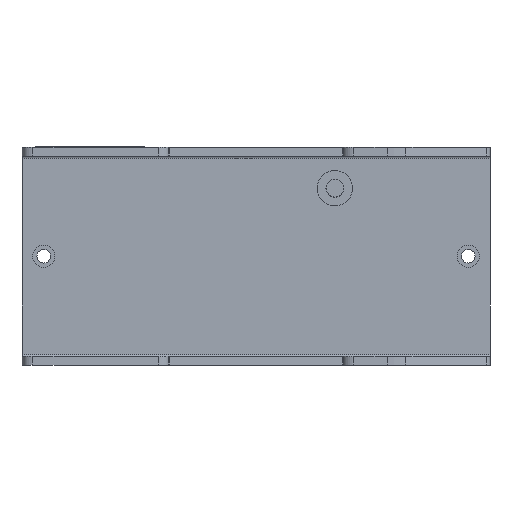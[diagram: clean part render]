
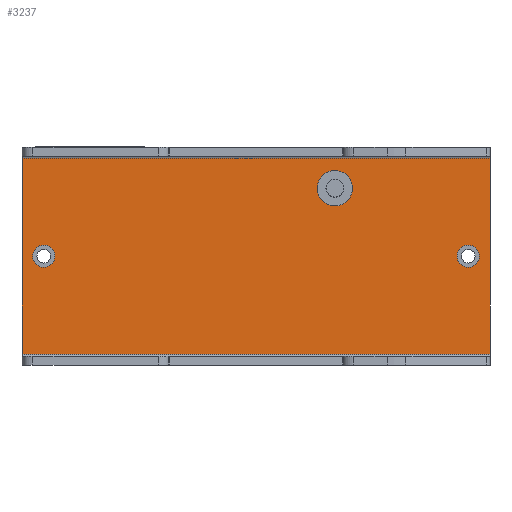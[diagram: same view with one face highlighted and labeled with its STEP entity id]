
A CAD part, front view. The second image highlights one B-rep face of the part: STEP entity #3237.
In plain terms, the highlighted planar face has unit normal (0, -1, 0).
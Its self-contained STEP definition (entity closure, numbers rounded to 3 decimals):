
#55 = ORIENTED_EDGE ( 'NONE', *, *, #2694, .F. ) ;
#68 = EDGE_CURVE ( 'NONE', #1998, #656, #1394, .T. ) ;
#72 = DIRECTION ( 'NONE',  ( 0., -1., 0. ) ) ;
#90 = CIRCLE ( 'NONE', #2482, 3.25 ) ;
#99 = DIRECTION ( 'NONE',  ( -1., 0., 0. ) ) ;
#169 = PLANE ( 'NONE',  #861 ) ;
#268 = EDGE_CURVE ( 'NONE', #656, #1998, #90, .T. ) ;
#327 = CARTESIAN_POINT ( 'NONE',  ( 82., 10.4, 20. ) ) ;
#333 = ORIENTED_EDGE ( 'NONE', *, *, #405, .F. ) ;
#357 = EDGE_CURVE ( 'NONE', #1734, #564, #639, .T. ) ;
#395 = AXIS2_PLACEMENT_3D ( 'NONE', #1664, #72, #1939 ) ;
#399 = VECTOR ( 'NONE', #1280, 1000. ) ;
#405 = EDGE_CURVE ( 'NONE', #2852, #3294, #1796, .T. ) ;
#450 = DIRECTION ( 'NONE',  ( 0., -1., 0. ) ) ;
#506 = ORIENTED_EDGE ( 'NONE', *, *, #357, .T. ) ;
#554 = DIRECTION ( 'NONE',  ( 0., 0., -1. ) ) ;
#564 = VERTEX_POINT ( 'NONE', #1783 ) ;
#566 = DIRECTION ( 'NONE',  ( 0., -1., 0. ) ) ;
#590 = ORIENTED_EDGE ( 'NONE', *, *, #2190, .F. ) ;
#596 = EDGE_LOOP ( 'NONE', ( #1379, #3202 ) ) ;
#634 = VERTEX_POINT ( 'NONE', #3139 ) ;
#639 = LINE ( 'NONE', #2443, #1177 ) ;
#656 = VERTEX_POINT ( 'NONE', #3183 ) ;
#711 = DIRECTION ( 'NONE',  ( 0., -1., 0. ) ) ;
#718 = DIRECTION ( 'NONE',  ( 0., 0., -1. ) ) ;
#817 = CARTESIAN_POINT ( 'NONE',  ( 4., 10.4, 20. ) ) ;
#851 = DIRECTION ( 'NONE',  ( 0., 0., -1. ) ) ;
#861 = AXIS2_PLACEMENT_3D ( 'NONE', #1771, #711, #2570 ) ;
#872 = CARTESIAN_POINT ( 'NONE',  ( 82., 10.4, 20. ) ) ;
#889 = FACE_BOUND ( 'NONE', #1391, .T. ) ;
#972 = FACE_OUTER_BOUND ( 'NONE', #2098, .T. ) ;
#1113 = LINE ( 'NONE', #1815, #1196 ) ;
#1151 = DIRECTION ( 'NONE',  ( 0., 0., -1. ) ) ;
#1177 = VECTOR ( 'NONE', #851, 1000. ) ;
#1188 = CARTESIAN_POINT ( 'NONE',  ( 57.5, 10.4, 32.5 ) ) ;
#1196 = VECTOR ( 'NONE', #2621, 1000. ) ;
#1239 = ORIENTED_EDGE ( 'NONE', *, *, #2689, .T. ) ;
#1260 = VERTEX_POINT ( 'NONE', #1502 ) ;
#1267 = CARTESIAN_POINT ( 'NONE',  ( 82., 10.4, 17.95 ) ) ;
#1280 = DIRECTION ( 'NONE',  ( 1., 0., 0. ) ) ;
#1379 = ORIENTED_EDGE ( 'NONE', *, *, #68, .F. ) ;
#1391 = EDGE_LOOP ( 'NONE', ( #3299, #2248 ) ) ;
#1394 = CIRCLE ( 'NONE', #3441, 3.25 ) ;
#1427 = CARTESIAN_POINT ( 'NONE',  ( 57.5, 10.4, 35.75 ) ) ;
#1428 = EDGE_LOOP ( 'NONE', ( #333, #590 ) ) ;
#1498 = VERTEX_POINT ( 'NONE', #1561 ) ;
#1502 = CARTESIAN_POINT ( 'NONE',  ( 4., 10.4, 17.95 ) ) ;
#1519 = DIRECTION ( 'NONE',  ( 0., 0., -1. ) ) ;
#1536 = VECTOR ( 'NONE', #99, 1000. ) ;
#1561 = CARTESIAN_POINT ( 'NONE',  ( 86., 10.4, 38. ) ) ;
#1606 = CIRCLE ( 'NONE', #395, 2.05 ) ;
#1664 = CARTESIAN_POINT ( 'NONE',  ( 4., 10.4, 20. ) ) ;
#1675 = EDGE_CURVE ( 'NONE', #1260, #2110, #3045, .T. ) ;
#1678 = FACE_BOUND ( 'NONE', #596, .T. ) ;
#1734 = VERTEX_POINT ( 'NONE', #2565 ) ;
#1771 = CARTESIAN_POINT ( 'NONE',  ( 0., 10.4, 40. ) ) ;
#1783 = CARTESIAN_POINT ( 'NONE',  ( 0., 10.4, 2. ) ) ;
#1796 = CIRCLE ( 'NONE', #2744, 2.05 ) ;
#1798 = DIRECTION ( 'NONE',  ( 0., -1., 0. ) ) ;
#1815 = CARTESIAN_POINT ( 'NONE',  ( 86., 10.4, 40. ) ) ;
#1939 = DIRECTION ( 'NONE',  ( 0., 0., -1. ) ) ;
#1998 = VERTEX_POINT ( 'NONE', #1427 ) ;
#2024 = CARTESIAN_POINT ( 'NONE',  ( 0., 10.4, 38. ) ) ;
#2095 = AXIS2_PLACEMENT_3D ( 'NONE', #327, #450, #718 ) ;
#2098 = EDGE_LOOP ( 'NONE', ( #506, #1239, #55, #2928 ) ) ;
#2110 = VERTEX_POINT ( 'NONE', #3038 ) ;
#2143 = EDGE_CURVE ( 'NONE', #1498, #1734, #2962, .T. ) ;
#2152 = CARTESIAN_POINT ( 'NONE',  ( 57.5, 10.4, 32.5 ) ) ;
#2190 = EDGE_CURVE ( 'NONE', #3294, #2852, #2331, .T. ) ;
#2248 = ORIENTED_EDGE ( 'NONE', *, *, #1675, .F. ) ;
#2331 = CIRCLE ( 'NONE', #2095, 2.05 ) ;
#2404 = AXIS2_PLACEMENT_3D ( 'NONE', #817, #2412, #554 ) ;
#2412 = DIRECTION ( 'NONE',  ( 0., -1., 0. ) ) ;
#2417 = CARTESIAN_POINT ( 'NONE',  ( 82., 10.4, 22.05 ) ) ;
#2420 = DIRECTION ( 'NONE',  ( 0., 0., -1. ) ) ;
#2443 = CARTESIAN_POINT ( 'NONE',  ( 0., 10.4, 40. ) ) ;
#2482 = AXIS2_PLACEMENT_3D ( 'NONE', #2152, #566, #2420 ) ;
#2516 = LINE ( 'NONE', #3412, #399 ) ;
#2565 = CARTESIAN_POINT ( 'NONE',  ( 0., 10.4, 38. ) ) ;
#2570 = DIRECTION ( 'NONE',  ( 0., 0., -1. ) ) ;
#2621 = DIRECTION ( 'NONE',  ( 0., 0., -1. ) ) ;
#2689 = EDGE_CURVE ( 'NONE', #564, #634, #2516, .T. ) ;
#2694 = EDGE_CURVE ( 'NONE', #1498, #634, #1113, .T. ) ;
#2744 = AXIS2_PLACEMENT_3D ( 'NONE', #872, #2749, #1151 ) ;
#2749 = DIRECTION ( 'NONE',  ( 0., -1., 0. ) ) ;
#2852 = VERTEX_POINT ( 'NONE', #2417 ) ;
#2928 = ORIENTED_EDGE ( 'NONE', *, *, #2143, .T. ) ;
#2962 = LINE ( 'NONE', #2024, #1536 ) ;
#3012 = EDGE_CURVE ( 'NONE', #2110, #1260, #1606, .T. ) ;
#3017 = FACE_BOUND ( 'NONE', #1428, .T. ) ;
#3038 = CARTESIAN_POINT ( 'NONE',  ( 4., 10.4, 22.05 ) ) ;
#3045 = CIRCLE ( 'NONE', #2404, 2.05 ) ;
#3139 = CARTESIAN_POINT ( 'NONE',  ( 86., 10.4, 2. ) ) ;
#3183 = CARTESIAN_POINT ( 'NONE',  ( 57.5, 10.4, 29.25 ) ) ;
#3202 = ORIENTED_EDGE ( 'NONE', *, *, #268, .F. ) ;
#3237 = ADVANCED_FACE ( 'NONE', ( #3017, #972, #1678, #889 ), #169, .T. ) ;
#3294 = VERTEX_POINT ( 'NONE', #1267 ) ;
#3299 = ORIENTED_EDGE ( 'NONE', *, *, #3012, .F. ) ;
#3412 = CARTESIAN_POINT ( 'NONE',  ( 0., 10.4, 2. ) ) ;
#3441 = AXIS2_PLACEMENT_3D ( 'NONE', #1188, #1798, #1519 ) ;
